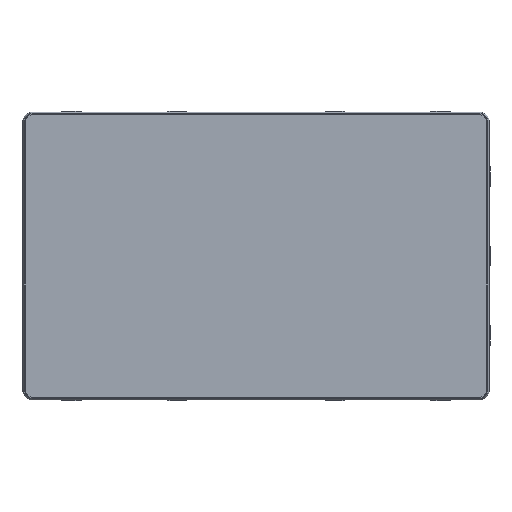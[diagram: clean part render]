
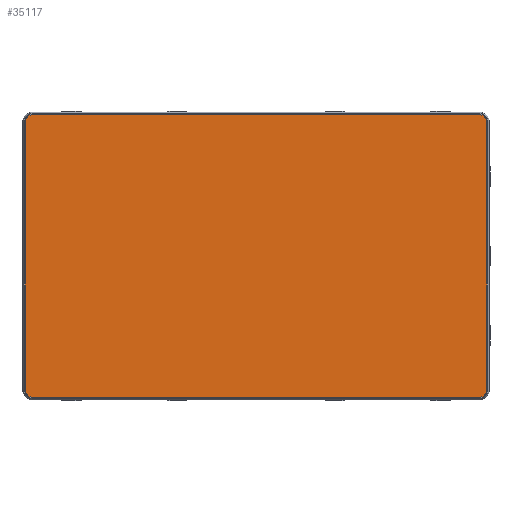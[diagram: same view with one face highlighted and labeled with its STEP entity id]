
A CAD part, top view. The second image highlights one B-rep face of the part: STEP entity #35117.
In plain terms, the highlighted planar face has unit normal (0, 0, 1).
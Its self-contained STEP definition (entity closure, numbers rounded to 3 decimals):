
#35117=ADVANCED_FACE('',(#65456),#65458,.T.);
#65456=FACE_BOUND('',#65457,.T.);
#65457=EDGE_LOOP('',(#88983,#88984,#88985,#88986,#88987,#88988,#88989,#88990));
#65458=PLANE('',#65459);
#65459=AXIS2_PLACEMENT_3D('',#65460,#65461,#65462);
#65460=CARTESIAN_POINT('',(-46.,14.,12.));
#65461=DIRECTION('',(0.,0.,1.));
#65462=DIRECTION('',(-1.,0.,0.));
#88983=ORIENTED_EDGE('',*,*,#99413,.T.);
#88984=ORIENTED_EDGE('',*,*,#99411,.T.);
#88985=ORIENTED_EDGE('',*,*,#99409,.T.);
#88986=ORIENTED_EDGE('',*,*,#99407,.T.);
#88987=ORIENTED_EDGE('',*,*,#99405,.T.);
#88988=ORIENTED_EDGE('',*,*,#99403,.T.);
#88989=ORIENTED_EDGE('',*,*,#99401,.T.);
#88990=ORIENTED_EDGE('',*,*,#99399,.T.);
#99399=EDGE_CURVE('',#116721,#116719,#116722,.T.);
#99401=EDGE_CURVE('',#116724,#116721,#116725,.T.);
#99403=EDGE_CURVE('',#116727,#116724,#116728,.T.);
#99405=EDGE_CURVE('',#116730,#116727,#116731,.T.);
#99407=EDGE_CURVE('',#116733,#116730,#116734,.T.);
#99409=EDGE_CURVE('',#116736,#116733,#116737,.T.);
#99411=EDGE_CURVE('',#116739,#116736,#116740,.T.);
#99413=EDGE_CURVE('',#116719,#116739,#116742,.T.);
#116719=VERTEX_POINT('',#157540);
#116721=VERTEX_POINT('',#157544);
#116722=CIRCLE('',#157545,8.);
#116724=VERTEX_POINT('',#157552);
#116725=LINE('',#157553,#157554);
#116727=VERTEX_POINT('',#157559);
#116728=CIRCLE('',#157560,8.);
#116730=VERTEX_POINT('',#157567);
#116731=LINE('',#157568,#157569);
#116733=VERTEX_POINT('',#157574);
#116734=CIRCLE('',#157575,8.);
#116736=VERTEX_POINT('',#157582);
#116737=LINE('',#157583,#157584);
#116739=VERTEX_POINT('',#157589);
#116740=CIRCLE('',#157590,8.);
#116742=LINE('',#157597,#157598);
#157540=CARTESIAN_POINT('',(-300.,-146.5,12.));
#157544=CARTESIAN_POINT('',(-308.,-138.5,12.));
#157545=AXIS2_PLACEMENT_3D('',#157546,#157547,#157548);
#157546=CARTESIAN_POINT('',(-300.,-138.5,12.));
#157547=DIRECTION('',(0.,0.,1.));
#157548=DIRECTION('',(-1.,0.,0.));
#157552=CARTESIAN_POINT('',(-308.,166.5,12.));
#157553=CARTESIAN_POINT('',(-308.,166.5,12.));
#157554=VECTOR('',#157555,1.);
#157555=DIRECTION('',(0.,-1.,0.));
#157559=CARTESIAN_POINT('',(-300.,174.5,12.));
#157560=AXIS2_PLACEMENT_3D('',#157561,#157562,#157563);
#157561=CARTESIAN_POINT('',(-300.,166.5,12.));
#157562=DIRECTION('',(0.,0.,1.));
#157563=DIRECTION('',(0.,1.,0.));
#157567=CARTESIAN_POINT('',(208.,174.5,12.));
#157568=CARTESIAN_POINT('',(208.,174.5,12.));
#157569=VECTOR('',#157570,1.);
#157570=DIRECTION('',(-1.,0.,0.));
#157574=CARTESIAN_POINT('',(216.,166.5,12.));
#157575=AXIS2_PLACEMENT_3D('',#157576,#157577,#157578);
#157576=CARTESIAN_POINT('',(208.,166.5,12.));
#157577=DIRECTION('',(0.,0.,1.));
#157578=DIRECTION('',(1.,0.,0.));
#157582=CARTESIAN_POINT('',(216.,-138.5,12.));
#157583=CARTESIAN_POINT('',(216.,-138.5,12.));
#157584=VECTOR('',#157585,1.);
#157585=DIRECTION('',(0.,1.,0.));
#157589=CARTESIAN_POINT('',(208.,-146.5,12.));
#157590=AXIS2_PLACEMENT_3D('',#157591,#157592,#157593);
#157591=CARTESIAN_POINT('',(208.,-138.5,12.));
#157592=DIRECTION('',(0.,0.,1.));
#157593=DIRECTION('',(0.,-1.,0.));
#157597=CARTESIAN_POINT('',(-300.,-146.5,12.));
#157598=VECTOR('',#157599,1.);
#157599=DIRECTION('',(1.,0.,0.));
